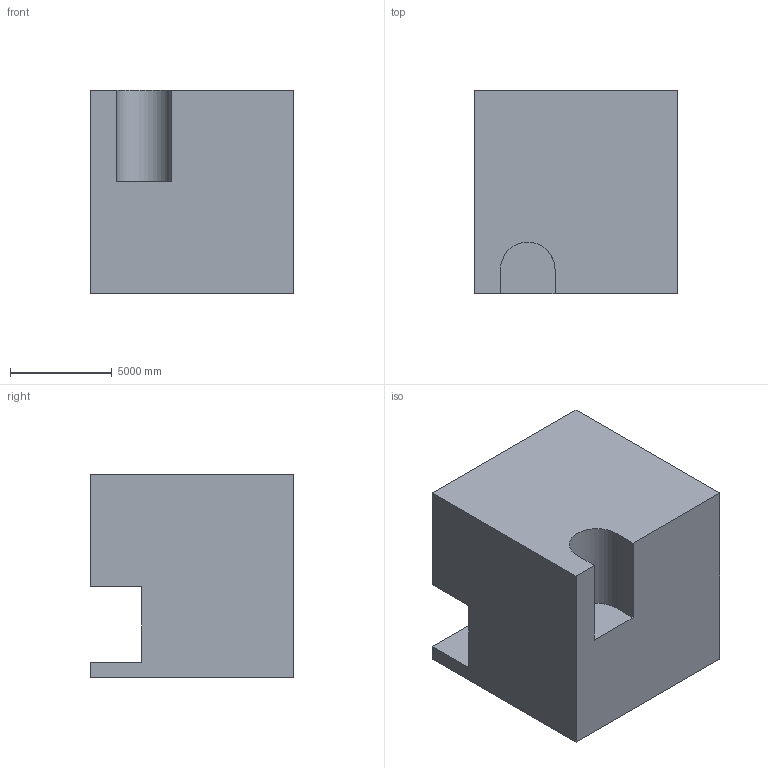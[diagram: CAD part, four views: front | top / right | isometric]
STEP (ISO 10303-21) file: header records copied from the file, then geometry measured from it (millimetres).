
FILE_DESCRIPTION (( 'STEP AP203' ), '1' );
FILE_NAME ('47.STEP', '2022-08-31T11:16:57', ( 'user' ), ( '' ), 'SwSTEP 2.0', 'SolidWorks 2021', '' );
FILE_SCHEMA (( 'CONFIG_CONTROL_DESIGN' ));
Length unit declared in the file: centimetre
Products named in the file (1): 47
Bounding box: 10000 x 10000 x 10000 mm (x, y, z)
Volume: 855416351263.2 mm3; surface area: 700268167.5 mm2
Topology: 1 solids, 1 shells, 21 faces, 54 edges, 36 vertices
Faces by surface type: plane 20, cylinder 1
Entity records: 707 total; most frequent: CARTESIAN_POINT 112, ORIENTED_EDGE 108, DIRECTION 100, EDGE_CURVE 54, VECTOR 52, LINE 52, VERTEX_POINT 36, AXIS2_PLACEMENT_3D 24
